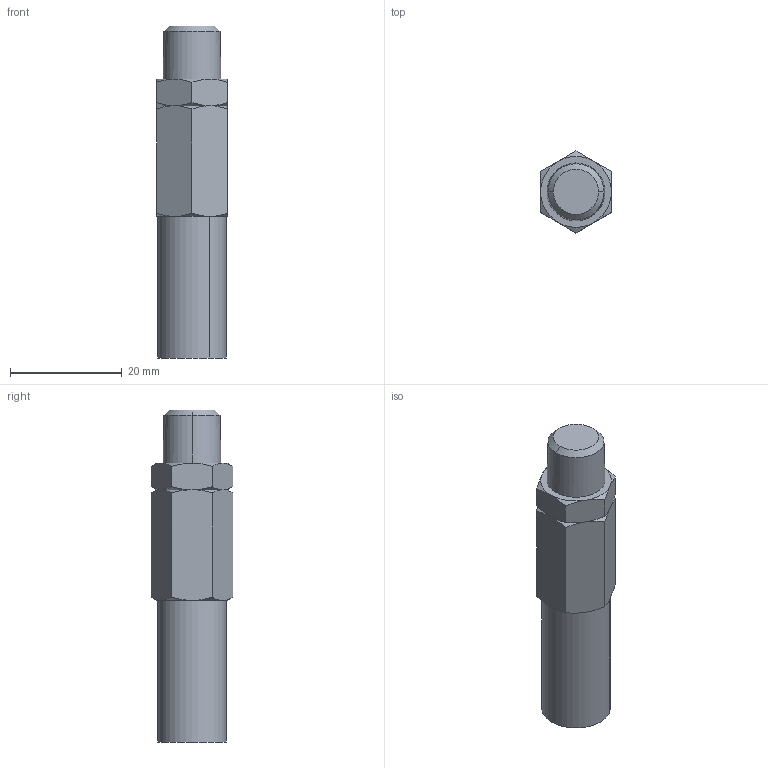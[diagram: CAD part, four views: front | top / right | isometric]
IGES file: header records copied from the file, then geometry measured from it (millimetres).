
Start section:  PTC IGES file: 563231-en-l.igs
Global section: file name: 563231-en-l.igs; native system: Creo Parametric by PTC Inc.; preprocessor: 2019030; author: qusrh3; organization: Unknown; date: 20191231.213311; units: inch
Bounding box: 12.7 x 14.66 x 59.54 mm (x, y, z)
Surface area: 2823.5 mm2 (no closed solid volume)
Topology: 0 solids, 0 shells, 46 faces, 184 edges, 184 vertices
Faces by surface type: revolution 30, bspline 16
